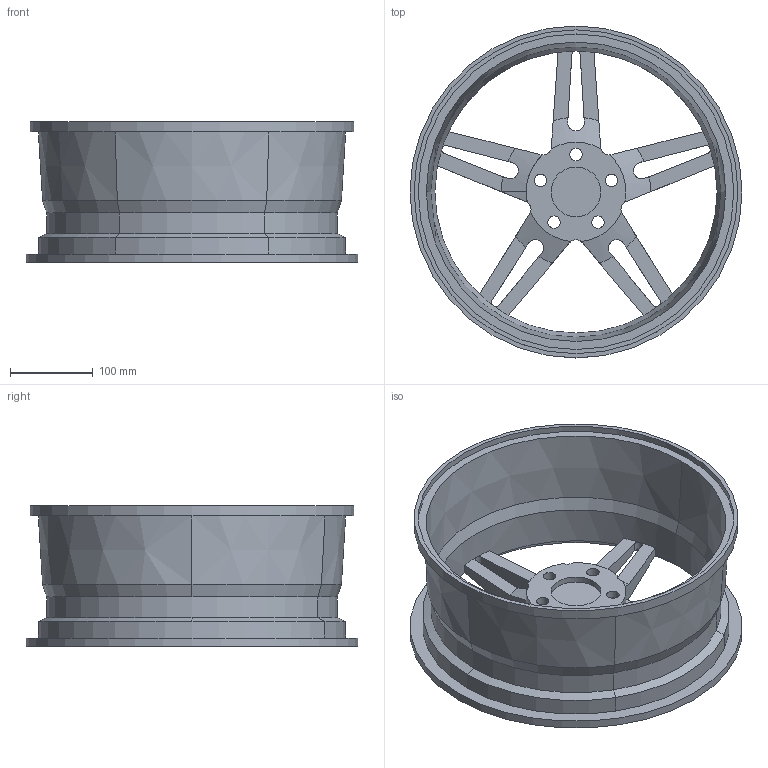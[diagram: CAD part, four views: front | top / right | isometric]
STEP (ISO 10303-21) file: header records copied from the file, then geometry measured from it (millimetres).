
FILE_DESCRIPTION(('FreeCAD Model'),'2;1');
FILE_NAME('L:/WRK/SesamX/Geometry/Wheel_rim_to_mesh.step', '2021-11-11T11:23:44',('Author'),(''), 'Open CASCADE STEP processor 7.3','FreeCAD','Unknown');
FILE_SCHEMA(('AUTOMOTIVE_DESIGN { 1 0 10303 214 1 1 1 1 }'));
Length unit declared in the file: millimetre
Products named in the file (1): Wheel_rim_to_mesh
Bounding box: 400 x 400 x 169.63 mm (x, y, z)
Volume: 1972399.9 mm3; surface area: 608424.7 mm2
Topology: 1 solids, 1 shells, 135 faces, 443 edges, 299 vertices
Faces by surface type: cylinder 48, plane 46, cone 39, torus 2
Full cylindrical faces by diameter (mm): 15 x5, 25 x5, 60 x1, 340.061 x1, 360 x1, 380.18 x1, 390 x1, 390.18 x1, 400 x1
Entity records: 19234 total; most frequent: CARTESIAN_POINT 11147, DIRECTION 1354, ORIENTED_EDGE 886, PCURVE 886, DEFINITIONAL_REPRESENTATION 886, LINE 599, VECTOR 599, EDGE_CURVE 443
